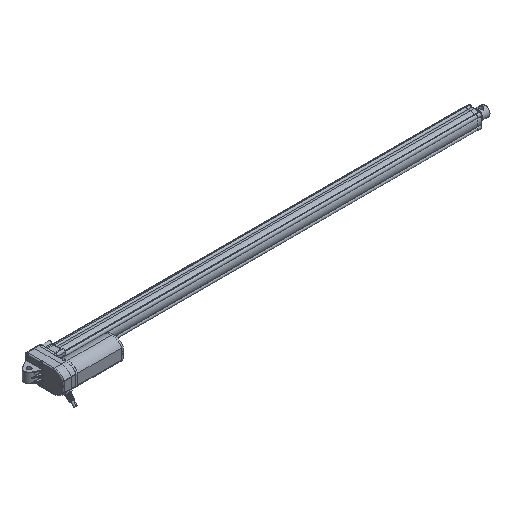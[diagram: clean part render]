
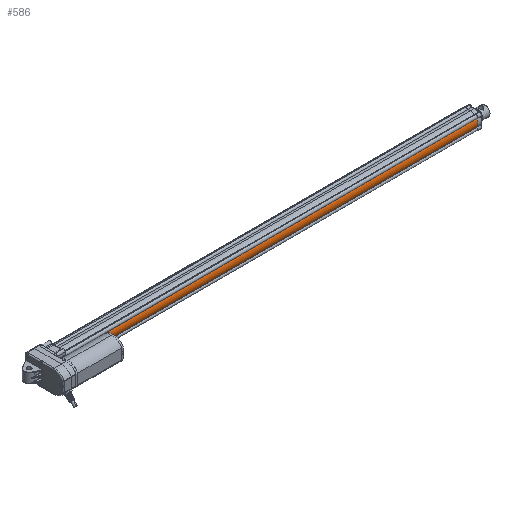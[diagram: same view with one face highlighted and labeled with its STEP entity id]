
A CAD part, isometric view. The second image highlights one B-rep face of the part: STEP entity #586.
In plain terms, the highlighted cylindrical face has radius 15 mm (diameter 30 mm), a partial arc.
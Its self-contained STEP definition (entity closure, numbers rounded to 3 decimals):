
#586=ADVANCED_FACE('',(#1861),#1862,.T.);
#1861=FACE_OUTER_BOUND('',#5513,.T.);
#1862=CYLINDRICAL_SURFACE('',#5514,15.0);
#5513=EDGE_LOOP('',(#11141,#11142,#11143,#11144));
#5514=AXIS2_PLACEMENT_3D('',#11145,#11146,#11147);
#11141=ORIENTED_EDGE('',*,*,#14265,.T.);
#11142=ORIENTED_EDGE('',*,*,#13938,.F.);
#11143=ORIENTED_EDGE('',*,*,#14268,.T.);
#11144=ORIENTED_EDGE('',*,*,#14271,.F.);
#11145=CARTESIAN_POINT('',(440.75,0.0,0.0));
#11146=DIRECTION('',(1.0,0.0,0.0));
#11147=DIRECTION('',(0.0,0.0,-1.0));
#13938=EDGE_CURVE('',#16599,#16589,#16601,.T.);
#14265=EDGE_CURVE('',#17126,#16589,#17127,.T.);
#14268=EDGE_CURVE('',#16599,#17129,#17131,.T.);
#14271=EDGE_CURVE('',#17126,#17129,#17135,.T.);
#16589=VERTEX_POINT('',#23947);
#16599=VERTEX_POINT('',#23957);
#16601=CIRCLE('',#23959,15.0);
#17126=VERTEX_POINT('',#25316);
#17127=LINE('',#25317,#25318);
#17129=VERTEX_POINT('',#25320);
#17131=LINE('',#25322,#25323);
#17135=CIRCLE('',#25327,15.0);
#23947=CARTESIAN_POINT('',(851.5,-12.94,-7.587));
#23957=CARTESIAN_POINT('',(851.5,-12.94,7.587));
#23959=AXIS2_PLACEMENT_3D('',#29525,#29526,#29527);
#25316=CARTESIAN_POINT('',(30.0,-12.94,-7.587));
#25317=CARTESIAN_POINT('',(440.75,-12.94,-7.587));
#25318=VECTOR('',#29909,1.0);
#25320=CARTESIAN_POINT('',(30.0,-12.94,7.587));
#25322=CARTESIAN_POINT('',(440.75,-12.94,7.587));
#25323=VECTOR('',#29916,1.0);
#25327=AXIS2_PLACEMENT_3D('',#29923,#29924,#29925);
#29525=CARTESIAN_POINT('',(851.5,0.0,0.0));
#29526=DIRECTION('',(1.0,0.0,0.0));
#29527=DIRECTION('',(0.0,0.0,-1.0));
#29909=DIRECTION('',(1.0,0.0,0.0));
#29916=DIRECTION('',(-1.0,-0.0,-0.0));
#29923=CARTESIAN_POINT('',(30.0,0.0,0.0));
#29924=DIRECTION('',(-1.0,-0.0,-0.0));
#29925=DIRECTION('',(0.0,0.0,-1.0));
